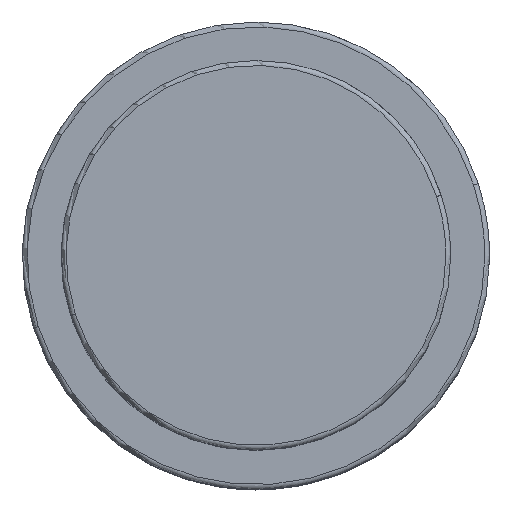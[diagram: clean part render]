
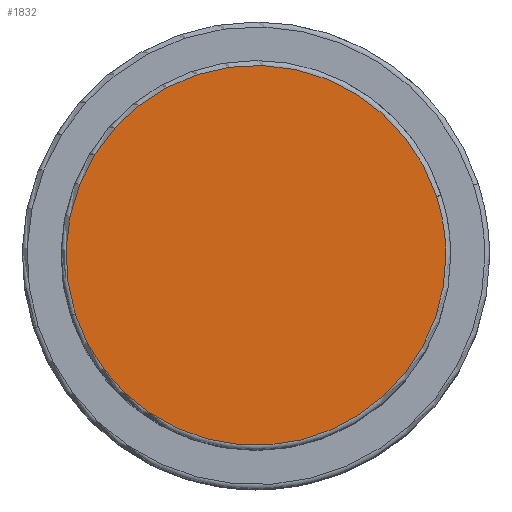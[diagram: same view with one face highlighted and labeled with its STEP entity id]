
A CAD part, top view. The second image highlights one B-rep face of the part: STEP entity #1832.
In plain terms, the highlighted planar face has unit normal (0, 0, 1).
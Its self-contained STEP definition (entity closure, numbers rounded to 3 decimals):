
#1798=CARTESIAN_POINT('',(19.5,0.0,38.5));
#1799=VERTEX_POINT('',#1798);
#1800=CARTESIAN_POINT('',(18.546,6.026,38.5));
#1801=VERTEX_POINT('',#1800);
#1802=CARTESIAN_POINT('',(0.0,0.0,38.5));
#1803=DIRECTION('',(0.0,0.0,1.0));
#1804=DIRECTION('',(1.0,0.0,0.0));
#1805=AXIS2_PLACEMENT_3D('',#1802,#1803,#1804);
#1806=CIRCLE('',#1805,19.5);
#1807=EDGE_CURVE('no 1944',#1799,#1801,#1806,.T.);
#1808=ORIENTED_EDGE('',*,*,#1807,.T.);
#1809=CARTESIAN_POINT('',(-18.546,-6.026,38.5));
#1810=VERTEX_POINT('',#1809);
#1811=CARTESIAN_POINT('',(0.0,0.0,38.5));
#1812=DIRECTION('',(0.0,0.0,1.0));
#1813=DIRECTION('',(1.0,0.0,0.0));
#1814=AXIS2_PLACEMENT_3D('',#1811,#1812,#1813);
#1815=CIRCLE('',#1814,19.5);
#1816=EDGE_CURVE('no 1950',#1801,#1810,#1815,.T.);
#1817=ORIENTED_EDGE('',*,*,#1816,.T.);
#1818=CARTESIAN_POINT('',(0.0,0.0,38.5));
#1819=DIRECTION('',(0.0,0.0,1.0));
#1820=DIRECTION('',(1.0,0.0,0.0));
#1821=AXIS2_PLACEMENT_3D('',#1818,#1819,#1820);
#1822=CIRCLE('',#1821,19.5);
#1823=EDGE_CURVE('no 1954',#1810,#1799,#1822,.T.);
#1824=ORIENTED_EDGE('',*,*,#1823,.T.);
#1825=EDGE_LOOP('',(#1808,#1817,#1824));
#1826=FACE_OUTER_BOUND('',#1825,.T.);
#1827=CARTESIAN_POINT('',(0.0,0.0,38.5));
#1828=DIRECTION('',(0.0,0.0,1.0));
#1829=DIRECTION('',(1.0,0.0,0.0));
#1830=AXIS2_PLACEMENT_3D('',#1827,#1828,#1829);
#1831=PLANE('',#1830);
#1832=ADVANCED_FACE('no 1935',(#1826),#1831,.T.);
